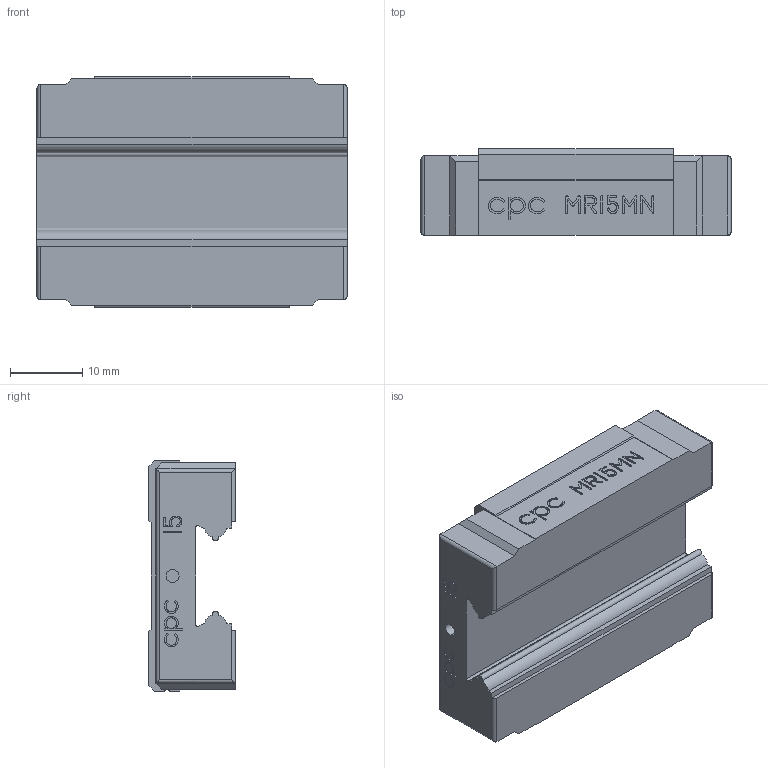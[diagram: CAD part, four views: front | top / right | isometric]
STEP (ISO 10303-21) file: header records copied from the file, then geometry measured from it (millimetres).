
FILE_DESCRIPTION (( 'STEP AP203' ), '1' );
FILE_NAME ('15MN-SS_ZZ-block.STEP', '2009-08-12T01:48:36', ( 'cpc' ), ( '' ), 'SwSTEP 2.0', 'SolidWorks 2007', '' );
FILE_SCHEMA (( 'CONFIG_CONTROL_DESIGN' ));
Length unit declared in the file: millimetre
Products named in the file (1): 15MN-SS_ZZ-block
Bounding box: 43 x 12 x 32 mm (x, y, z)
Volume: 12338 mm3; surface area: 5284.4 mm2
Topology: 1 solids, 1 shells, 542 faces, 1466 edges, 962 vertices
Faces by surface type: bspline 270, plane 213, cylinder 43, cone 16
Entity records: 27675 total; most frequent: CARTESIAN_POINT 15833, ORIENTED_EDGE 2916, DIRECTION 1536, EDGE_CURVE 1458, VERTEX_POINT 962, LINE 830, VECTOR 830, EDGE_LOOP 586
